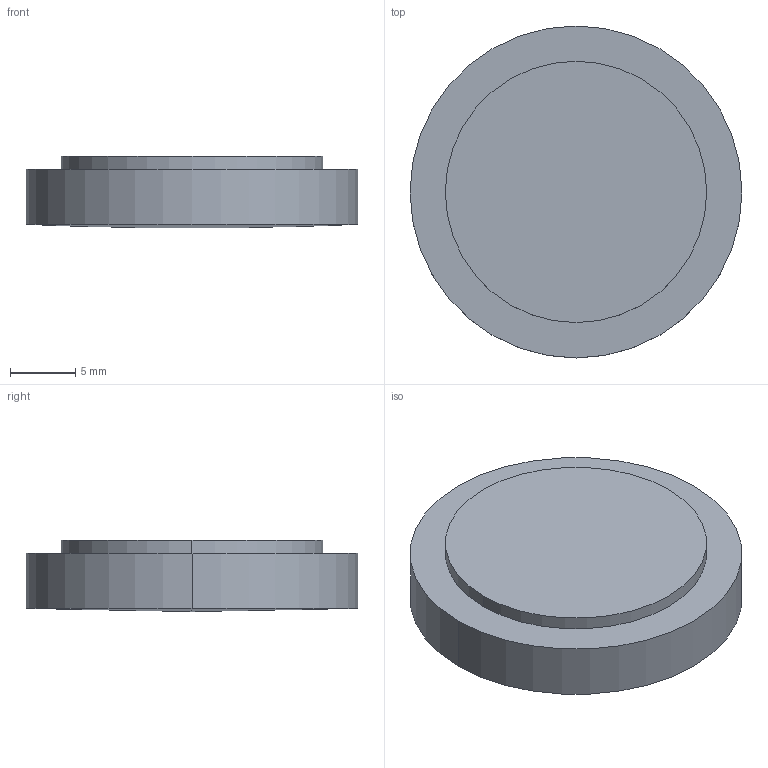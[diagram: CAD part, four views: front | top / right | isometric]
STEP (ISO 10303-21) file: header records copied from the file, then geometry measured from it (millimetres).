
FILE_DESCRIPTION(('STEP AP214'),'1');
FILE_NAME('LLU-25610.STEP','2020-03-09T17:42:11',(' '),(' '),'Spatial InterOp 3D',' ',' ');
FILE_SCHEMA(('AUTOMOTIVE_DESIGN { 1 0 10303 214 1 1 1 1 }'));
Length unit declared in the file: millimetre
Products named in the file (1): 1
Bounding box: 25.4 x 25.4 x 5.5 mm (x, y, z)
Volume: 2526.9 mm3; surface area: 2042.6 mm2
Topology: 2 solids, 2 shells, 9 faces, 16 edges, 9 vertices
Faces by surface type: cylinder 4, plane 3, sphere 2
Entity records: 229 total; most frequent: DIRECTION 46, CARTESIAN_POINT 34, ORIENTED_EDGE 28, AXIS2_PLACEMENT_3D 21, EDGE_CURVE 14, CIRCLE 10, ADVANCED_FACE 9, FACE_OUTER_BOUND 9
